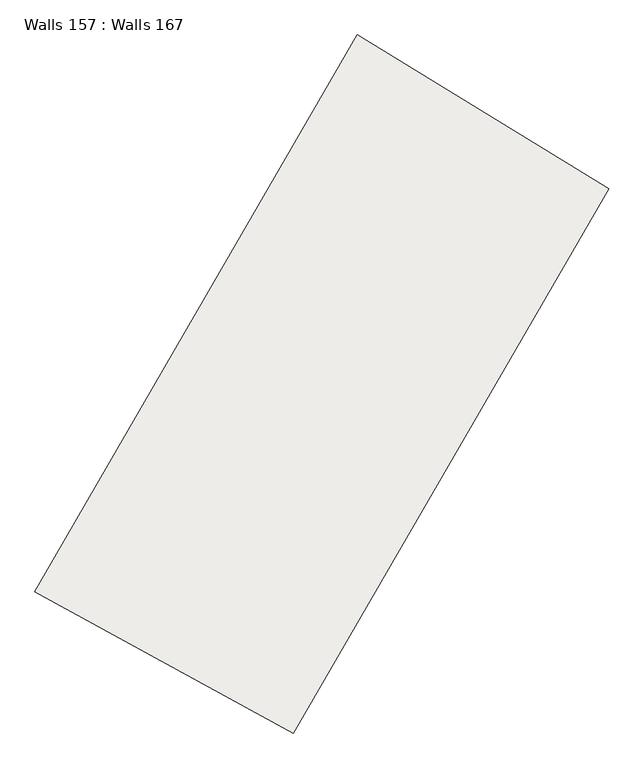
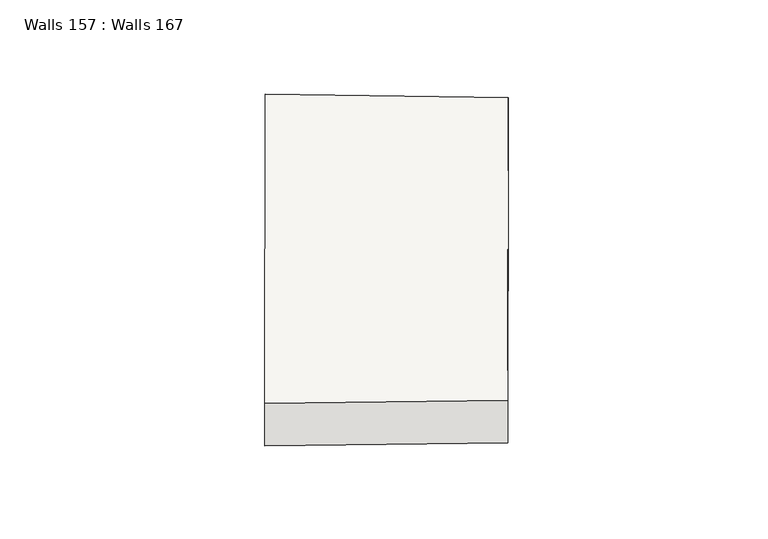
"""IFC4 building model written with IfcOpenShell, lengths in millimetres: slab geometry, Walls 157 : Walls 167."""

from ifc_helpers import new_model, si_unit, frame, origin, place, context, project, spatial, source, transform, mapped, element, save
from ifc_brep_helpers import plane_surface, spline_curve, spline_surface, advanced_brep


def walls_157_walls_167_2e30f5ea(model_context):
    return source(origin(), model_context, "Body", "AdvancedBrep", [
        advanced_brep(
        [(206724.9923501, 103965.4633987, 641750.0), (210233.616028, 102044.6406877, 641750.0), (210233.616028, 102044.6406877, 642600.0), (206724.9923501, 103965.4633987, 642600.0), (211104.9216579, 111526.2602661, 641850.0), (211104.9216579, 111526.2602661, 642700.0), (214516.6442449, 109438.1632882, 642700.0), (214516.6442449, 109438.1632882, 641850.0)],
        [
            (0, 1),
            (1, 2),
            (2, 3),
            (3, 0),
            (4, 5),
            (5, 6),
            (6, 7),
            (7, 4),
            (5, 3, spline_curve(3, [(211104.9216579, 111526.2602661, 642700.0), (209584.323036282, 109041.768061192, 642666.666666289), (208123.778133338, 106520.521130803, 642633.333333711), (206724.9923501, 103965.4633987, 642600.0)], [4, 4], [0.0, 28.354573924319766])),
            (2, 6, spline_curve(3, [(210233.616028, 102044.6406877, 642600.0), (211601.455222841, 104543.170593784, 642633.333333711), (213029.68718539, 107008.637725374, 642666.666666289), (214516.6442449, 109438.1632882, 642700.0)], [4, 4], [0.0, 28.354573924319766])),
            (7, 1, spline_curve(3, [(214516.6442449, 109438.1632882, 641850.0), (213029.68718539, 107008.637725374, 641816.666666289), (211601.455222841, 104543.170593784, 641783.333333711), (210233.616028, 102044.6406877, 641750.0)], [4, 4], [0.0, 28.354573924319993])),
            (0, 4, spline_curve(3, [(206724.9923501, 103965.4633987, 641750.0), (208123.778133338, 106520.521130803, 641783.333333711), (209584.323036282, 109041.768061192, 641816.666666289), (211104.9216579, 111526.2602661, 641850.0)], [4, 4], [0.0, 28.354573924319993])),
        ],
        [
            plane_surface(frame((208479.3041891, 103005.0520432, 642175.0), z_axis=(-0.4802056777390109, -0.8771559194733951, 0.0), x_axis=(0.0, 0.0, 1.0))),
            plane_surface(frame((212810.7829514, 110482.2117771, 642275.0), z_axis=(0.5220242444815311, 0.8529306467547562, 0.0), x_axis=(0.8529306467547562, -0.5220242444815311, 0.0))),
            spline_surface(3, 3, [[(214516.6442449, 109438.1632882, 642700.0), (213029.687185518, 107008.637725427, 642666.666666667), (211601.455223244, 104543.170593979, 642633.333333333), (210233.616028, 102044.6406877, 642600.0)], [(213379.40338256, 110134.195614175, 642700.0), (211881.232469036, 107686.347837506, 642666.666666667), (210442.229526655, 105202.287439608, 642633.333333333), (209064.074802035, 102684.914924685, 642600.0)], [(212242.16252024, 110830.227940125, 642700.0), (210732.777752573, 108364.057949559, 642666.666666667), (209283.003830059, 105861.404285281, 642633.333333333), (207894.533576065, 103325.189161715, 642600.0)], [(211104.9216579, 111526.2602661, 642700.0), (209584.32303609, 109041.768061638, 642666.666666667), (208123.77813347, 106520.52113091, 642633.333333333), (206724.9923501, 103965.4633987, 642600.0)]], [4, 4], [4, 4], [0.0, 13.12335939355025], [0.0, 28.354573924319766]),
            spline_surface(3, 3, [[(211104.9216579, 111526.2602661, 641850.0), (209584.32303609, 109041.768061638, 641816.666666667), (208123.77813347, 106520.52113091, 641783.333333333), (206724.9923501, 103965.4633987, 641750.0)], [(212242.16252024, 110830.227940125, 641850.0), (210732.777752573, 108364.057949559, 641816.666666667), (209283.003830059, 105861.404285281, 641783.333333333), (207894.533576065, 103325.189161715, 641750.0)], [(213379.40338256, 110134.195614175, 641850.0), (211881.232469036, 107686.347837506, 641816.666666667), (210442.229526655, 105202.287439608, 641783.333333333), (209064.074802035, 102684.914924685, 641750.0)], [(214516.6442449, 109438.1632882, 641850.0), (213029.687185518, 107008.637725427, 641816.666666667), (211601.455223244, 104543.170593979, 641783.333333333), (210233.616028, 102044.6406877, 641750.0)]], [4, 4], [4, 4], [0.0, 13.12335939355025], [0.0, 28.354573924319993]),
            spline_surface(3, 3, [[(211104.9216579, 111526.2602661, 642700.0), (209584.32303609, 109041.768061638, 642666.666666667), (208123.77813347, 106520.52113091, 642633.333333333), (206724.9923501, 103965.4633987, 642600.0)], [(211104.9216579, 111526.2602661, 642416.666666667), (209584.32303609, 109041.768061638, 642383.333333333), (208123.77813347, 106520.52113091, 642350.0), (206724.9923501, 103965.4633987, 642316.666666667)], [(211104.9216579, 111526.2602661, 642133.333333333), (209584.32303609, 109041.768061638, 642100.0), (208123.77813347, 106520.52113091, 642066.666666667), (206724.9923501, 103965.4633987, 642033.333333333)], [(211104.9216579, 111526.2602661, 641850.0), (209584.32303609, 109041.768061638, 641816.666666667), (208123.77813347, 106520.52113091, 641783.333333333), (206724.9923501, 103965.4633987, 641750.0)]], [4, 4], [4, 4], [0.0, 2.7887139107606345], [0.0, 28.671696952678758]),
            spline_surface(3, 3, [[(214516.6442449, 109438.1632882, 641850.0), (213029.687185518, 107008.637725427, 641816.666666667), (211601.455223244, 104543.170593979, 641783.333333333), (210233.616028, 102044.6406877, 641750.0)], [(214516.6442449, 109438.1632882, 642133.333333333), (213029.687185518, 107008.637725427, 642100.0), (211601.455223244, 104543.170593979, 642066.666666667), (210233.616028, 102044.6406877, 642033.333333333)], [(214516.6442449, 109438.1632882, 642416.666666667), (213029.687185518, 107008.637725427, 642383.333333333), (211601.455223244, 104543.170593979, 642350.0), (210233.616028, 102044.6406877, 642316.666666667)], [(214516.6442449, 109438.1632882, 642700.0), (213029.687185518, 107008.637725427, 642666.666666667), (211601.455223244, 104543.170593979, 642633.333333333), (210233.616028, 102044.6406877, 642600.0)]], [4, 4], [4, 4], [0.0, 2.7887139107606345], [0.0, 28.037451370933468]),
        ],
        [
            (0, [[1, 2, 3, 4]]),
            (1, [[5, 6, 7, 8]]),
            (2, [[-6, 9, -3, 10]]),
            (3, [[-8, 11, -1, 12]]),
            (4, [[-5, -12, -4, -9]]),
            (5, [[-7, -10, -2, -11]]),
        ],
    ),
    ])


if __name__ == "__main__":
    model = new_model("IFC4")
    model_context = context("Model", 3, world=origin())
    ifc_project = project(units=[si_unit("LENGTHUNIT", "METRE", prefix="MILLI")], contexts=[model_context])
    site = spatial("IfcSite", under=ifc_project)
    building = spatial("IfcBuilding", under=site)
    placement = place(None, origin())
    walls_157_walls_167_shape = walls_157_walls_167_2e30f5ea(model_context)
    element("IfcSlab", 1, ObjectType="Walls 157 : Walls 167", at=placement, inside=building, context=model_context, shape_type="MappedRepresentation", body=[
        mapped(walls_157_walls_167_shape, transform((0.0, 0.0, 0.0), x_axis=(1.0, 0.0, 0.0), y_axis=(0.0, 1.0, 0.0), z_axis=(0.0, 0.0, 1.0))),
    ])
    save(model, "model.ifc")
